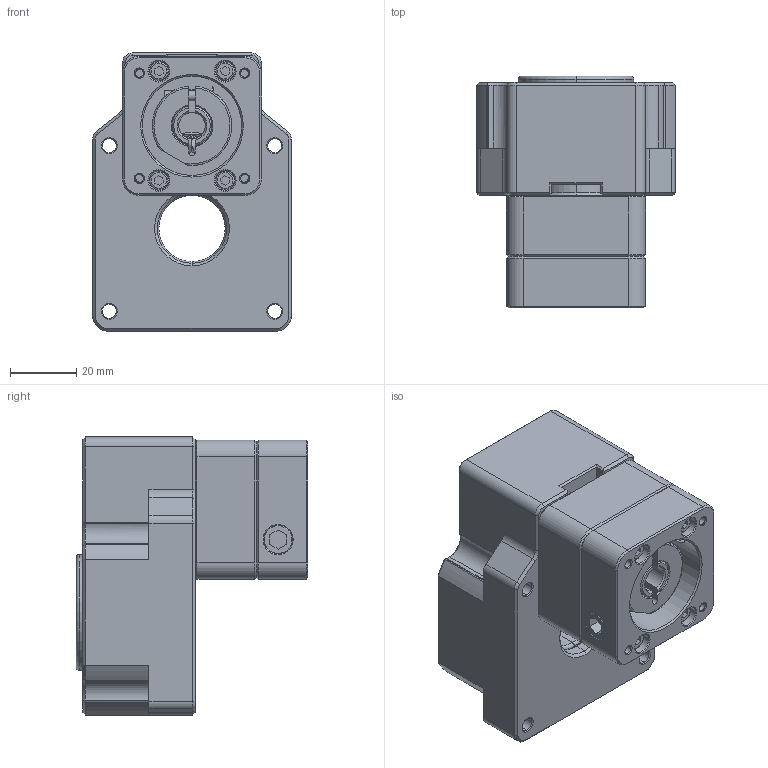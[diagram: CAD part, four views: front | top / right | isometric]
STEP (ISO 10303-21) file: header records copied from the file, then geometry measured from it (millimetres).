
FILE_DESCRIPTION (( 'STEP AP203' ), '1' );
FILE_NAME ('GSB60-05K-SV.STEP', '2017-09-15T08:41:39', ( 'Microsoft' ), ( 'Microsoft' ), 'SwSTEP 2.0', 'SolidWorks 2016', '' );
FILE_SCHEMA (( 'CONFIG_CONTROL_DESIGN' ));
Length unit declared in the file: millimetre
Products named in the file (1): GSB60-05K-SV
Bounding box: 60 x 70 x 84 mm (x, y, z)
Surface area: 36165.2 mm2 (no closed solid volume)
Topology: 0 solids, 17 shells, 398 faces, 1086 edges, 700 vertices
Faces by surface type: plane 131, cone 125, cylinder 119, torus 23
Entity records: 12959 total; most frequent: CARTESIAN_POINT 2714, DIRECTION 2254, ORIENTED_EDGE 1920, EDGE_CURVE 1078, AXIS2_PLACEMENT_3D 856, VERTEX_POINT 700, LINE 542, VECTOR 542
